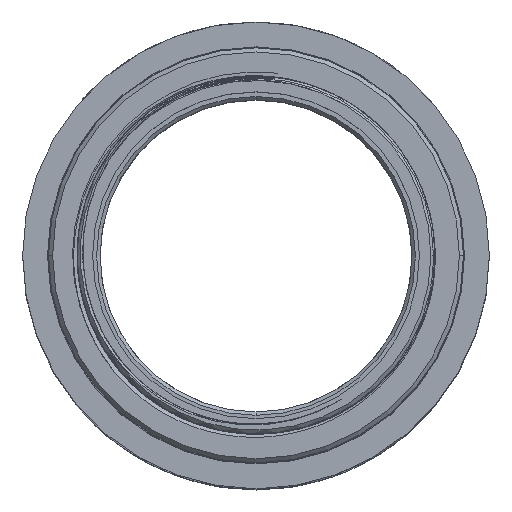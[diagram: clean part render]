
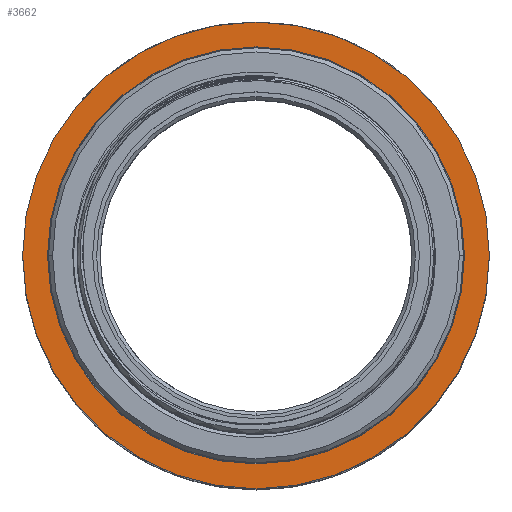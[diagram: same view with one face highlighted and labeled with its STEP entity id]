
A CAD part, top view. The second image highlights one B-rep face of the part: STEP entity #3662.
In plain terms, the highlighted planar face has unit normal (0, 0, 1).
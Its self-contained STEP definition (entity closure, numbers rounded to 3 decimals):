
#2785=CARTESIAN_POINT('',(0.,0.,-13.481));
#2786=DIRECTION('',(0.,0.,1.));
#2787=DIRECTION('',(-1.,0.,0.));
#2788=AXIS2_PLACEMENT_3D('',#2785,#2786,#2787);
#2790=CARTESIAN_POINT('',(0.,0.,-13.481));
#2791=DIRECTION('',(0.,0.,1.));
#2792=DIRECTION('',(1.,0.,0.));
#2793=AXIS2_PLACEMENT_3D('',#2790,#2791,#2792);
#2795=CARTESIAN_POINT('',(0.,0.,-13.481));
#2796=DIRECTION('',(0.,0.,-1.));
#2797=DIRECTION('',(1.,0.,0.));
#2798=AXIS2_PLACEMENT_3D('',#2795,#2796,#2797);
#2800=CARTESIAN_POINT('',(0.,0.,-13.481));
#2801=DIRECTION('',(0.,0.,-1.));
#2802=DIRECTION('',(-1.,0.,0.));
#2803=AXIS2_PLACEMENT_3D('',#2800,#2801,#2802);
#2805=CARTESIAN_POINT('',(-17.145,0.,-13.481));
#2806=CARTESIAN_POINT('',(17.145,0.,-13.481));
#2807=VERTEX_POINT('',#2805);
#2808=VERTEX_POINT('',#2806);
#2817=CARTESIAN_POINT('',(-15.316,0.,-13.481));
#2818=CARTESIAN_POINT('',(15.316,0.,-13.481));
#2819=VERTEX_POINT('',#2817);
#2820=VERTEX_POINT('',#2818);
#3649=CARTESIAN_POINT('',(0.,0.,-13.481));
#3650=DIRECTION('',(0.,0.,1.));
#3651=DIRECTION('',(-1.,0.,0.));
#3652=AXIS2_PLACEMENT_3D('',#3649,#3650,#3651);
#3653=PLANE('',#3652);
#3654=ORIENTED_EDGE('',*,*,#3139,.F.);
#3655=ORIENTED_EDGE('',*,*,#3100,.F.);
#3656=EDGE_LOOP('',(#3654,#3655));
#3657=FACE_OUTER_BOUND('',#3656,.F.);
#3658=ORIENTED_EDGE('',*,*,#2998,.F.);
#3659=ORIENTED_EDGE('',*,*,#3238,.F.);
#3660=EDGE_LOOP('',(#3658,#3659));
#3661=FACE_BOUND('',#3660,.F.);
#3662=ADVANCED_FACE('',(#3657,#3661),#3653,.T.);
#2789=CIRCLE('',#2788,17.145);
#2794=CIRCLE('',#2793,17.145);
#2799=CIRCLE('',#2798,15.316);
#2804=CIRCLE('',#2803,15.316);
#2998=EDGE_CURVE('',#2820,#2819,#2799,.T.);
#3100=EDGE_CURVE('',#2808,#2807,#2794,.T.);
#3139=EDGE_CURVE('',#2807,#2808,#2789,.T.);
#3238=EDGE_CURVE('',#2819,#2820,#2804,.T.);
